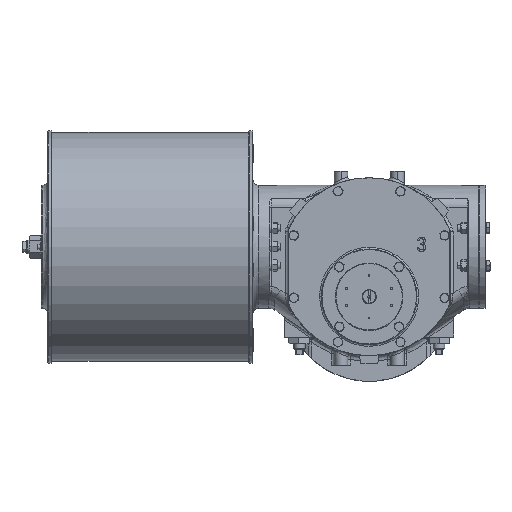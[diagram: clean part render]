
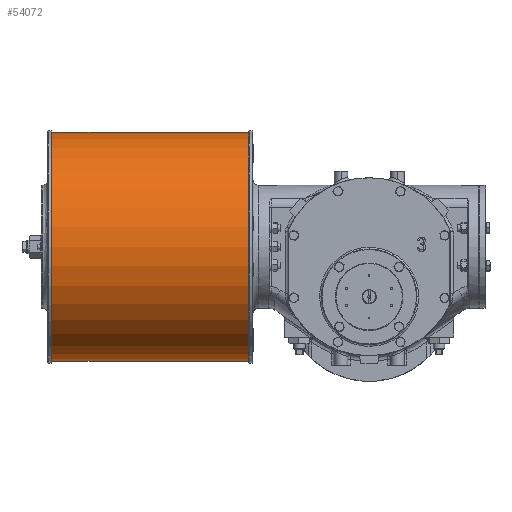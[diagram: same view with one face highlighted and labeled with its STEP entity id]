
A CAD part, top view. The second image highlights one B-rep face of the part: STEP entity #54072.
In plain terms, the highlighted cylindrical face has radius 203.2 mm (diameter 406.4 mm), a partial arc.
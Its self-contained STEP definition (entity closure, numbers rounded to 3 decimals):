
#4892 = VERTEX_POINT ( 'NONE', #61664 ) ;
#4916 = FACE_OUTER_BOUND ( 'NONE', #52131, .T. ) ;
#5607 = VECTOR ( 'NONE', #44302, 1000. ) ;
#8834 = EDGE_CURVE ( 'NONE', #4892, #49932, #44139, .T. ) ;
#9366 = DIRECTION ( 'NONE',  ( 0., -1., 0. ) ) ;
#10435 = VERTEX_POINT ( 'NONE', #45419 ) ;
#11739 = ORIENTED_EDGE ( 'NONE', *, *, #17922, .T. ) ;
#13180 = CARTESIAN_POINT ( 'NONE',  ( -214., -167.7, 74.5 ) ) ;
#16635 = CARTESIAN_POINT ( 'NONE',  ( -214., -167.7, 74.5 ) ) ;
#17922 = EDGE_CURVE ( 'NONE', #25281, #10435, #24559, .T. ) ;
#23476 = ORIENTED_EDGE ( 'NONE', *, *, #49172, .F. ) ;
#24254 = ORIENTED_EDGE ( 'NONE', *, *, #50624, .T. ) ;
#24559 = CIRCLE ( 'NONE', #53472, 203.2 ) ;
#25105 = CARTESIAN_POINT ( 'NONE',  ( -214., 35.5, 74.5 ) ) ;
#25281 = VERTEX_POINT ( 'NONE', #16635 ) ;
#26341 = DIRECTION ( 'NONE',  ( 0., -1., 0. ) ) ;
#30009 = CYLINDRICAL_SURFACE ( 'NONE', #58128, 203.2 ) ;
#30688 = DIRECTION ( 'NONE',  ( -1., 0., 0. ) ) ;
#31349 = DIRECTION ( 'NONE',  ( 1., 0., 0. ) ) ;
#39827 = DIRECTION ( 'NONE',  ( -1., 0., 0. ) ) ;
#44139 = CIRCLE ( 'NONE', #62347, 203.2 ) ;
#44302 = DIRECTION ( 'NONE',  ( -1., 0., 0. ) ) ;
#44613 = CARTESIAN_POINT ( 'NONE',  ( -214., 238.7, 74.5 ) ) ;
#45419 = CARTESIAN_POINT ( 'NONE',  ( -214., 238.7, 74.5 ) ) ;
#49172 = EDGE_CURVE ( 'NONE', #25281, #49932, #59694, .T. ) ;
#49932 = VERTEX_POINT ( 'NONE', #63899 ) ;
#50624 = EDGE_CURVE ( 'NONE', #10435, #4892, #63761, .T. ) ;
#51118 = DIRECTION ( 'NONE',  ( 0., -1., 0. ) ) ;
#52131 = EDGE_LOOP ( 'NONE', ( #11739, #24254, #59522, #23476 ) ) ;
#53472 = AXIS2_PLACEMENT_3D ( 'NONE', #25105, #39827, #9366 ) ;
#54072 = ADVANCED_FACE ( 'NONE', ( #4916 ), #30009, .T. ) ;
#54358 = DIRECTION ( 'NONE',  ( -1., 0., 0. ) ) ;
#55817 = CARTESIAN_POINT ( 'NONE',  ( -214., 35.5, 74.5 ) ) ;
#58128 = AXIS2_PLACEMENT_3D ( 'NONE', #55817, #30688, #51118 ) ;
#59522 = ORIENTED_EDGE ( 'NONE', *, *, #8834, .T. ) ;
#59694 = LINE ( 'NONE', #13180, #65365 ) ;
#61664 = CARTESIAN_POINT ( 'NONE',  ( -564., 238.7, 74.5 ) ) ;
#62347 = AXIS2_PLACEMENT_3D ( 'NONE', #66179, #31349, #26341 ) ;
#63761 = LINE ( 'NONE', #44613, #5607 ) ;
#63899 = CARTESIAN_POINT ( 'NONE',  ( -564., -167.7, 74.5 ) ) ;
#65365 = VECTOR ( 'NONE', #54358, 1000. ) ;
#66179 = CARTESIAN_POINT ( 'NONE',  ( -564., 35.5, 74.5 ) ) ;
